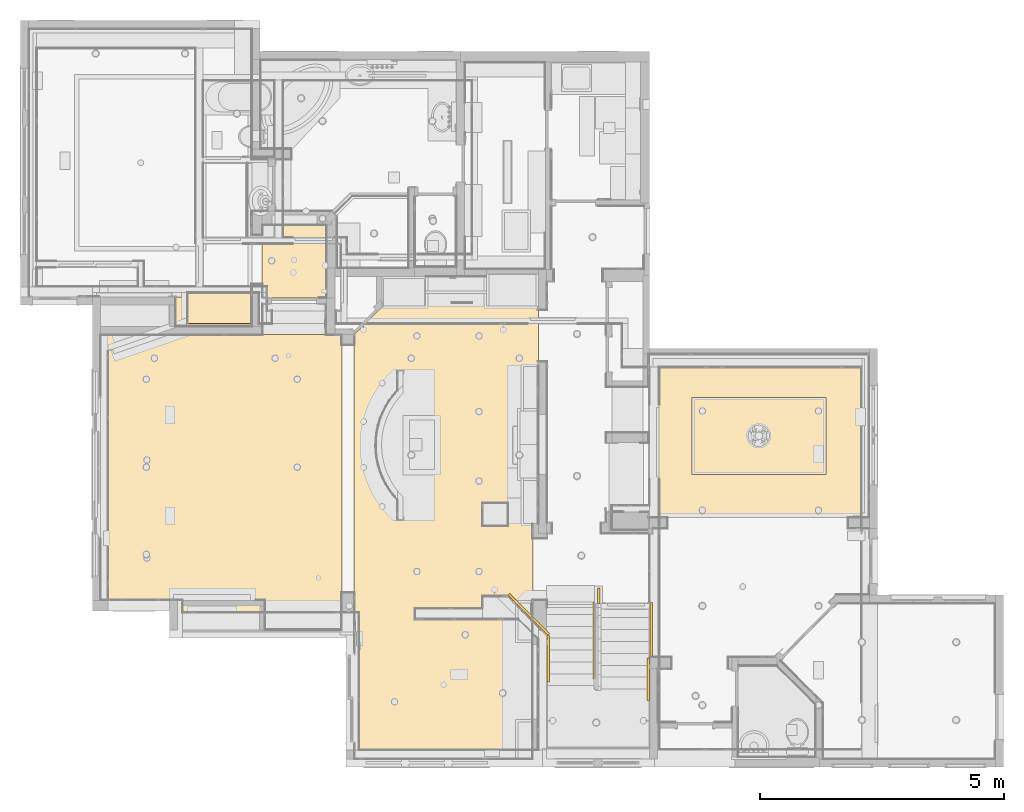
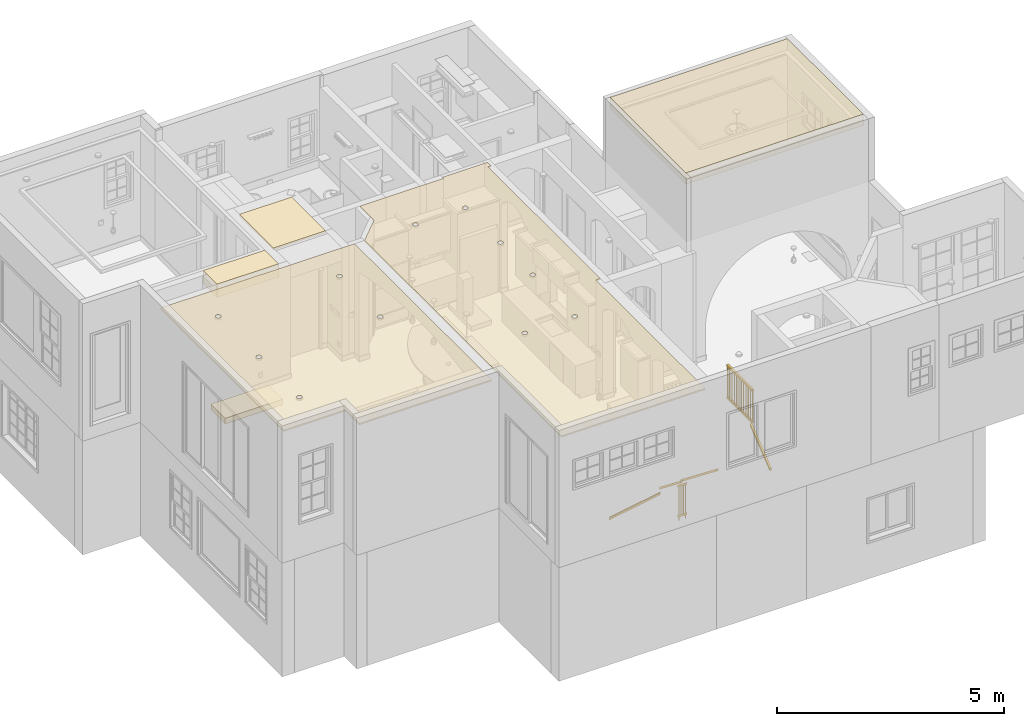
# One storey, part 34 of 81: 7 coverings, 6 railings, 1 element without a shape of its own.
"""IFC2X3 building model written with IfcOpenShell, lengths in feet."""

from ifc_helpers import new_model, entity, si_unit, converted_unit, derived_unit, direction, frame, frame_2d, origin, origin_2d_with_axis, place, context, subcontext, project, spatial, polyline, circle_curve, parameter, trimmed, segment, composite_curve, rectangle, outline, extrude, material, layer, layer_set, layer_usage, type_object, element, aggregate, save


model = new_model("IFC2X3")

# Units and contexts
model_context = context("Model", 3, precision=0.0001, world=origin(), true_north=direction((6.12303176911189e-17, 1.0)))
body_context = subcontext(model_context, "Body", "Model", "MODEL_VIEW")
ifc_project = project(units=[converted_unit("LENGTHUNIT", "FOOT", entity("IfcRatioMeasure", 0.3048), si_unit("LENGTHUNIT", "METRE"), dimensions=[1, 0, 0, 0, 0, 0, 0]), converted_unit("AREAUNIT", "SQUARE FOOT", entity("IfcRatioMeasure", 0.09290304), si_unit("AREAUNIT", "SQUARE_METRE"), dimensions=[2, 0, 0, 0, 0, 0, 0]), converted_unit("VOLUMEUNIT", "CUBIC FOOT", entity("IfcRatioMeasure", 0.028316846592), si_unit("VOLUMEUNIT", "CUBIC_METRE"), dimensions=[3, 0, 0, 0, 0, 0, 0]), converted_unit("PLANEANGLEUNIT", "DEGREE", entity("IfcRatioMeasure", 0.0174532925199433), si_unit("PLANEANGLEUNIT", "RADIAN"), dimensions=[0, 0, 0, 0, 0, 0, 0]), si_unit("MASSUNIT", "GRAM", prefix="KILO"), derived_unit("MASSDENSITYUNIT", [(si_unit("MASSUNIT", "GRAM", prefix="KILO"), 1), (si_unit("LENGTHUNIT", "METRE"), -3)]), derived_unit("MOMENTOFINERTIAUNIT", [(si_unit("LENGTHUNIT", "METRE"), 4)]), si_unit("TIMEUNIT", "SECOND"), si_unit("FREQUENCYUNIT", "HERTZ"), si_unit("THERMODYNAMICTEMPERATUREUNIT", "DEGREE_CELSIUS"), derived_unit("THERMALTRANSMITTANCEUNIT", [(si_unit("MASSUNIT", "GRAM", prefix="KILO"), 1), (si_unit("THERMODYNAMICTEMPERATUREUNIT", "KELVIN"), -1), (si_unit("TIMEUNIT", "SECOND"), -3)]), derived_unit("VOLUMETRICFLOWRATEUNIT", [(si_unit("LENGTHUNIT", "METRE"), 3), (si_unit("TIMEUNIT", "SECOND"), -1)]), si_unit("ELECTRICCURRENTUNIT", "AMPERE"), si_unit("ELECTRICVOLTAGEUNIT", "VOLT"), si_unit("POWERUNIT", "WATT"), si_unit("FORCEUNIT", "NEWTON"), si_unit("ILLUMINANCEUNIT", "LUX"), si_unit("LUMINOUSFLUXUNIT", "LUMEN"), si_unit("LUMINOUSINTENSITYUNIT", "CANDELA"), derived_unit("USERDEFINED", [(si_unit("MASSUNIT", "GRAM", prefix="KILO"), -1), (si_unit("LENGTHUNIT", "METRE"), -2), (si_unit("TIMEUNIT", "SECOND"), 3), (si_unit("LUMINOUSFLUXUNIT", "LUMEN"), 1)]), derived_unit("LINEARVELOCITYUNIT", [(si_unit("LENGTHUNIT", "METRE"), 1), (si_unit("TIMEUNIT", "SECOND"), -1)]), si_unit("PRESSUREUNIT", "PASCAL"), derived_unit("USERDEFINED", [(si_unit("LENGTHUNIT", "METRE"), -2), (si_unit("MASSUNIT", "GRAM", prefix="KILO"), 1), (si_unit("TIMEUNIT", "SECOND"), -2)]), derived_unit("LINEARFORCEUNIT", [(si_unit("MASSUNIT", "GRAM", prefix="KILO"), 1), (si_unit("LENGTHUNIT", "METRE"), 1), (si_unit("TIMEUNIT", "SECOND"), -2), (si_unit("LENGTHUNIT", "METRE"), -1)]), derived_unit("PLANARFORCEUNIT", [(si_unit("MASSUNIT", "GRAM", prefix="KILO"), 1), (si_unit("LENGTHUNIT", "METRE"), 1), (si_unit("TIMEUNIT", "SECOND"), -2), (si_unit("LENGTHUNIT", "METRE"), -2)])], contexts=[model_context])

# Site, building, storey
site_placement = place(None, origin())
site = spatial("IfcSite", under=ifc_project, at=site_placement, Name="Default", CompositionType="ELEMENT")
building_placement = place(site_placement, origin())
building = spatial("IfcBuilding", under=site, at=building_placement, CompositionType="ELEMENT")
storey_placement = place(building_placement, origin())
storey = spatial("IfcBuildingStorey", under=building, at=storey_placement, Name="First floor", CompositionType="ELEMENT", Elevation=0.0)

# Coverings
ifc_material = material(Name="Default New Material")
ifc_layer_1 = layer(ifc_material, 0.5)
ifc_layer_set_1 = layer_set([ifc_layer_1], Name="Compound Ceiling:Ceiling_6\"")
ifc_layer_usage_1 = layer_usage(ifc_layer_set_1, "AXIS3", "POSITIVE", 0.0)
covering_type_1 = type_object("IfcCoveringType", Name="Compound Ceiling:Ceiling_6\"", PredefinedType="CEILING")
covering_1_placement = place(storey_placement, origin())
element("IfcCovering", 1, at=covering_1_placement, inside=storey, type_object=covering_type_1, material=ifc_layer_usage_1, Name="Compound Ceiling:Ceiling_6\"", ObjectType="Compound Ceiling:Ceiling_6\"", PredefinedType="CEILING", context=body_context, shape_type="SweptSolid", body=[
    extrude(rectangle(XDim=2.08333333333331, YDim=4.83333333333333, at=frame_2d((-3.5527136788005e-15, 0.0), x_axis=(1.0, 0.0))), frame((-8.25000000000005, 30.8333333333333, 7.91666666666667), z_axis=(0.0, 0.0, 1.0), x_axis=(0.0, -1.0, 0.0)), (0.0, 0.0, 1.0), 0.500000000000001),
])
ifc_layer_usage_2 = layer_usage(ifc_layer_set_1, "AXIS3", "POSITIVE", 0.0)
covering_type_2 = type_object("IfcCoveringType", Name="Compound Ceiling:Ceiling_6\"", PredefinedType="CEILING")
covering_2_placement = place(storey_placement, origin())
element("IfcCovering", 2, at=covering_2_placement, inside=storey, type_object=covering_type_2, material=ifc_layer_usage_2, Name="Compound Ceiling:Ceiling_6\"", ObjectType="Compound Ceiling:Ceiling_6\"", PredefinedType="CEILING", context=body_context, shape_type="SweptSolid", body=[
    extrude(outline(polyline([(-5.49999983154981, -7.41666666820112), (5.49999983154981, -7.41666666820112), (5.49999983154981, 7.41666666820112), (-5.49999983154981, 7.41666666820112), (-5.49999983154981, -7.41666666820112)]), holes=[polyline([(2.58333350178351, 4.50000000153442), (2.58333350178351, -4.49999999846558), (-2.58333316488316, -4.49999999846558), (-2.58333316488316, 4.50000000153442), (2.58333350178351, 4.50000000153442)])]), frame((27.7083333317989, 22.2500001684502, 26.1666666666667), z_axis=(0.0, 0.0, 1.0), x_axis=(0.0, -1.0, 0.0)), (0.0, 0.0, 1.0), 0.5),
])
ifc_layer_usage_3 = layer_usage(ifc_layer_set_1, "AXIS3", "POSITIVE", 0.0)
covering_type_3 = type_object("IfcCoveringType", Name="Compound Ceiling:Ceiling_6\"", PredefinedType="CEILING")
covering_3_placement = place(storey_placement, origin())
element("IfcCovering", 3, at=covering_3_placement, inside=storey, type_object=covering_type_3, material=ifc_layer_usage_3, Name="Compound Ceiling:Ceiling_6\"", ObjectType="Compound Ceiling:Ceiling_6\"", PredefinedType="CEILING", context=body_context, shape_type="SweptSolid", body=[
    extrude(rectangle(XDim=10.9999996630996, YDim=14.8333333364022, at=frame_2d((0.0, -3.5527136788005e-15), x_axis=(1.0, 0.0))), frame((27.7083333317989, 22.2500001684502, 26.6666666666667), z_axis=(0.0, 0.0, 1.0), x_axis=(0.0, -1.0, 0.0)), (0.0, 0.0, 1.0), 0.5),
])
ifc_layer_2 = layer(ifc_material, 0.166666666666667)
ifc_layer_set_2 = layer_set([ifc_layer_2], Name="Compound Ceiling:Ceiling_2\"")
ifc_layer_usage_4 = layer_usage(ifc_layer_set_2, "AXIS3", "POSITIVE", 0.0)
covering_type_4 = type_object("IfcCoveringType", Name="Compound Ceiling:Ceiling_2\"", PredefinedType="CEILING")
covering_4_placement = place(storey_placement, origin())
element("IfcCovering", 4, at=covering_4_placement, inside=storey, type_object=covering_type_4, material=ifc_layer_usage_4, Name="Compound Ceiling:Ceiling_2\"", ObjectType="Compound Ceiling:Ceiling_2\"", PredefinedType="CEILING", context=body_context, shape_type="SweptSolid", body=[
    extrude(rectangle(XDim=4.35416666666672, YDim=4.91666666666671, at=origin_2d_with_axis()), frame((-3.46875, 33.9583333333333, 20.5), z_axis=(0.0, 0.0, 1.0), x_axis=(-1.0, 0.0, 0.0)), (0.0, 0.0, 1.0), 0.166666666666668),
])
ifc_layer_3 = layer(ifc_material, 1.16666666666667)
ifc_layer_set_3 = layer_set([ifc_layer_3], Name="Compound Ceiling:Ceiling_14\"")
ifc_layer_usage_5 = layer_usage(ifc_layer_set_3, "AXIS3", "POSITIVE", 0.0)
covering_type_5 = type_object("IfcCoveringType", Name="Compound Ceiling:Ceiling_14\"", PredefinedType="CEILING")
covering_5_placement = place(storey_placement, origin())
element("IfcCovering", 5, at=covering_5_placement, inside=storey, type_object=covering_type_5, material=ifc_layer_usage_5, Name="Compound Ceiling:Ceiling_14\"", ObjectType="Compound Ceiling:Ceiling_14\"", PredefinedType="CEILING", context=body_context, shape_type="SweptSolid", body=[
    extrude(rectangle(XDim=5.16666666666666, YDim=2.00000000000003, at=frame_2d((8.88178419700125e-16, 0.0), x_axis=(1.0, 0.0))), frame((-8.89583333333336, 30.5833333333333, 19.5), z_axis=(0.0, 0.0, 1.0), x_axis=(-1.0, 0.0, 0.0)), (0.0, 0.0, 1.0), 1.16666666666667),
])
ifc_layer_4 = layer(ifc_material, 0.125)
ifc_layer_set_4 = layer_set([ifc_layer_4], Name="Compound Ceiling:Ceiling_1.5\"")
ifc_layer_usage_6 = layer_usage(ifc_layer_set_4, "AXIS3", "POSITIVE", 0.0)
covering_type_6 = type_object("IfcCoveringType", Name="Compound Ceiling:Ceiling_1.5\"", PredefinedType="CEILING")
covering_6_placement = place(storey_placement, origin())
element("IfcCovering", 6, at=covering_6_placement, inside=storey, type_object=covering_type_6, material=ifc_layer_usage_6, Name="Compound Ceiling:Ceiling_1.5\"", ObjectType="Compound Ceiling:Ceiling_1.5\"", PredefinedType="CEILING", context=body_context, shape_type="SweptSolid", body=[
    extrude(outline(polyline([(-7.73611111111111, 3.03240740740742), (-7.73611111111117, -14.8009259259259), (8.47222222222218, -14.800925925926), (8.47222222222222, 5.03240740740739), (3.30555555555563, 5.03240740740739), (2.93055555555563, 5.03240740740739), (-2.56944444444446, 5.03240740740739), (-2.56944444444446, 3.40740740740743), (-2.56944444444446, 3.03240740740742), (-7.73611111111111, 3.03240740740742)]), holes=[composite_curve([segment(trimmed(circle_curve(frame_2d((-4.6527777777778, -0.0509259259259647), x_axis=(1.0, 0.0)), 0.208333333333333), [parameter(4.57999874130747e-13)], [parameter(180.0)], True, "PARAMETER"), False, "CONTINUOUS"), segment(trimmed(circle_curve(frame_2d((-4.6527777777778, -0.0509259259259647), x_axis=(1.0, 0.0)), 0.208333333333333), [parameter(180.0)], [parameter(359.999999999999)], True, "PARAMETER"), False, "CONTINUOUS")], self_intersect=False), composite_curve([segment(trimmed(circle_curve(frame_2d((-4.65277777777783, -5.90379326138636), x_axis=(1.0, 0.0)), 0.208333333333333), [parameter(0.0)], [parameter(180.0)], True, "PARAMETER"), False, "CONTINUOUS"), segment(trimmed(circle_curve(frame_2d((-4.65277777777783, -5.90379326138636), x_axis=(1.0, 0.0)), 0.208333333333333), [parameter(180.0)], [parameter(0.0)], True, "PARAMETER"), False, "CONTINUOUS")], self_intersect=False), composite_curve([segment(trimmed(circle_curve(frame_2d((-4.65277777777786, -11.8027859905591), x_axis=(1.0, 0.0)), 0.208333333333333), [parameter(0.0)], [parameter(180.0)], True, "PARAMETER"), False, "CONTINUOUS"), segment(trimmed(circle_curve(frame_2d((-4.65277777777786, -11.8027859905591), x_axis=(1.0, 0.0)), 0.208333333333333), [parameter(180.0)], [parameter(0.0)], True, "PARAMETER"), False, "CONTINUOUS")], self_intersect=False), composite_curve([segment(trimmed(circle_curve(frame_2d((5.47892837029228, -11.8027859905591), x_axis=(1.0, 0.0)), 0.208333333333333), [parameter(0.0)], [parameter(180.0)], True, "PARAMETER"), False, "CONTINUOUS"), segment(trimmed(circle_curve(frame_2d((5.47892837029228, -11.8027859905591), x_axis=(1.0, 0.0)), 0.208333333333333), [parameter(180.0)], [parameter(0.0)], True, "PARAMETER"), False, "CONTINUOUS")], self_intersect=False), composite_curve([segment(trimmed(circle_curve(frame_2d((5.47892837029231, -5.90192289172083), x_axis=(1.0, 0.0)), 0.208333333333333), [parameter(0.0)], [parameter(180.0)], True, "PARAMETER"), False, "CONTINUOUS"), segment(trimmed(circle_curve(frame_2d((5.47892837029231, -5.90192289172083), x_axis=(1.0, 0.0)), 0.208333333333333), [parameter(180.0)], [parameter(0.0)], True, "PARAMETER"), False, "CONTINUOUS")], self_intersect=False)]), frame((-8.76388888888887, 14.2407407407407, 20.5416666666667), z_axis=(0.0, 0.0, -1.0), x_axis=(1.0, 0.0, 0.0)), (0.0, 0.0, -1.0), 0.125),
])
ifc_layer_5 = layer(ifc_material, 0.125)
ifc_layer_set_5 = layer_set([ifc_layer_5], Name="Compound Ceiling:Ceiling_1.5\" 1")
ifc_layer_usage_7 = layer_usage(ifc_layer_set_5, "AXIS3", "POSITIVE", 0.0)
covering_type_7 = type_object("IfcCoveringType", Name="Compound Ceiling:Ceiling_1.5\" 1", PredefinedType="CEILING")
covering_7_placement = place(storey_placement, origin())
element("IfcCovering", 7, at=covering_7_placement, inside=storey, type_object=covering_type_7, material=ifc_layer_usage_7, Name="Compound Ceiling:Ceiling_1.5\" 1", ObjectType="Compound Ceiling:Ceiling_1.5\" 1", PredefinedType="CEILING", context=body_context, shape_type="SweptSolid", body=[
    extrude(outline(polyline([(-8.012952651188, 6.42656732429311), (-8.01295265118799, -0.573769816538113), (-8.17961931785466, -0.573769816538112), (-8.17961931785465, -4.07376981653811), (-8.17961931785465, -4.34460314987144), (-7.67927415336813, -4.34460314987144), (-7.67927415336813, -4.07376981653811), (8.59155917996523, -4.07376981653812), (8.59155917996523, -3.69876981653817), (24.4037140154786, -3.69876981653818), (24.4037140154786, 8.30123018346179), (-4.09628598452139, 8.30123018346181), (-5.97094884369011, 6.42656732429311), (-8.012952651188, 6.42656732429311)]), holes=[composite_curve([segment(trimmed(circle_curve(frame_2d((-4.01295265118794, -0.0734326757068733), x_axis=(0.0, -1.0)), 0.208333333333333), [parameter(0.0)], [parameter(180.0)], True, "PARAMETER"), False, "CONTINUOUS"), segment(trimmed(circle_curve(frame_2d((-4.01295265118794, -0.0734326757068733), x_axis=(0.0, -1.0)), 0.208333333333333), [parameter(180.0)], [parameter(0.0)], True, "PARAMETER"), False, "CONTINUOUS")], self_intersect=False), composite_curve([segment(trimmed(circle_curve(frame_2d((1.07038068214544, -0.0734326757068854), x_axis=(0.0, -1.0)), 0.208333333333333), [parameter(0.0)], [parameter(180.0)], True, "PARAMETER"), False, "CONTINUOUS"), segment(trimmed(circle_curve(frame_2d((1.07038068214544, -0.0734326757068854), x_axis=(0.0, -1.0)), 0.208333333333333), [parameter(180.0)], [parameter(0.0)], True, "PARAMETER"), False, "CONTINUOUS")], self_intersect=False), composite_curve([segment(trimmed(circle_curve(frame_2d((5.73704734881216, -0.0734326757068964), x_axis=(0.0, -1.0)), 0.208333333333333), [parameter(0.0)], [parameter(180.0)], True, "PARAMETER"), False, "CONTINUOUS"), segment(trimmed(circle_curve(frame_2d((5.73704734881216, -0.0734326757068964), x_axis=(0.0, -1.0)), 0.208333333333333), [parameter(180.0)], [parameter(0.0)], True, "PARAMETER"), False, "CONTINUOUS")], self_intersect=False), composite_curve([segment(trimmed(circle_curve(frame_2d((11.8055619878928, -0.0734326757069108), x_axis=(0.0, -1.0)), 0.208333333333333), [parameter(0.0)], [parameter(180.0)], True, "PARAMETER"), False, "CONTINUOUS"), segment(trimmed(circle_curve(frame_2d((11.8055619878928, -0.0734326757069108), x_axis=(0.0, -1.0)), 0.208333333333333), [parameter(180.0)], [parameter(359.999999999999)], True, "PARAMETER"), False, "CONTINUOUS")], self_intersect=False), composite_curve([segment(trimmed(circle_curve(frame_2d((11.8055619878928, 4.09323399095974), x_axis=(0.0, -1.0)), 0.208333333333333), [parameter(4.57999874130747e-13)], [parameter(180.0)], True, "PARAMETER"), False, "CONTINUOUS"), segment(trimmed(circle_curve(frame_2d((11.8055619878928, 4.09323399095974), x_axis=(0.0, -1.0)), 0.208333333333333), [parameter(180.0)], [parameter(359.999999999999)], True, "PARAMETER"), False, "CONTINUOUS")], self_intersect=False), composite_curve([segment(trimmed(circle_curve(frame_2d((-4.01295265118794, 4.0932339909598), x_axis=(0.0, -1.0)), 0.208333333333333), [parameter(0.0)], [parameter(180.0)], True, "PARAMETER"), False, "CONTINUOUS"), segment(trimmed(circle_curve(frame_2d((-4.01295265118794, 4.0932339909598), x_axis=(0.0, -1.0)), 0.208333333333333), [parameter(180.0)], [parameter(0.0)], True, "PARAMETER"), False, "CONTINUOUS")], self_intersect=False)]), frame((8.84289685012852, 24.9453806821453, 20.5416666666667), z_axis=(0.0, 0.0, -1.0), x_axis=(0.0, -1.0, 0.0)), (0.0, 0.0, -1.0), 0.125),
])

# Stair, railings
stair_placement = place(storey_placement, origin())
stair = element("IfcStair", 8, at=stair_placement, inside=storey, Name="Assembled Stair:Stair", ObjectType="Assembled Stair:Stair_2018", ShapeType="NOTDEFINED")
railing_1_placement = place(stair_placement, origin())
railing_1 = element("IfcRailing", 9, at=railing_1_placement, material=ifc_material, Name="Railing:Railing_4", ObjectType="Railing:Railing_4", PredefinedType="NOTDEFINED", context=body_context, shape_type="SweptSolid", body=[
    extrude(outline(polyline([(-2.32477286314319, -0.0833333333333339), (2.45199525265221, -0.083333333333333), (2.32477286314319, 0.0833333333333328), (-2.45199525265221, 0.083333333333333), (-2.32477286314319, -0.0833333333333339)])), frame((12.2047588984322, 10.2047588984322, 4.49203401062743), z_axis=(0.707106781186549, 0.707106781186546, 0.0), x_axis=(0.562067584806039, -0.562067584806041, 0.606761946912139)), (0.0, 0.0, 1.0), 0.166666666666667),
])
railing_2_placement = place(stair_placement, origin())
railing_2 = element("IfcRailing", 10, at=railing_2_placement, material=ifc_material, Name="Railing:Railing_4 2", ObjectType="Railing:Railing_4 2", PredefinedType="NOTDEFINED", context=body_context, shape_type="SweptSolid", body=[
    extrude(outline(polyline([(-3.23724075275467, -0.0833333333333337), (3.36838191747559, -0.083333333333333), (3.23724075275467, 0.0833333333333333), (-3.36838191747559, 0.0833333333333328), (-3.23724075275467, -0.0833333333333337)])), frame((16.5833333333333, 8.50882294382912, 6.7371736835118), z_axis=(1.0, 0.0, 0.0), x_axis=(0.0, -0.785885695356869, 0.618371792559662)), (0.0, 0.0, 1.0), 0.166666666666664),
])
railing_3_placement = place(stair_placement, origin())
railing_3 = element("IfcRailing", 11, at=railing_3_placement, material=ifc_material, Name="Railing:Railing_4 2", ObjectType="Railing:Railing_4 2", PredefinedType="NOTDEFINED", context=body_context, shape_type="SweptSolid", body=[
    extrude(outline(polyline([(-1.90400922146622, -0.0833333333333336), (2.03515038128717, -0.0833333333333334), (1.90400922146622, 0.0833333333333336), (-2.03515038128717, 0.083333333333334), (-1.90400922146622, -0.0833333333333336)])), frame((13.5012381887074, 7.28546980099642, 7.69976545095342), z_axis=(1.0, 0.0, 0.0), x_axis=(0.0, -0.785885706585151, 0.618371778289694)), (0.0, 0.0, 1.0), 0.166666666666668),
])
railing_4_placement = place(stair_placement, origin())
railing_4 = element("IfcRailing", 12, at=railing_4_placement, material=ifc_material, Name="Railing:Railing_1.3 3", ObjectType="Railing:Railing_1.3 3", PredefinedType="NOTDEFINED", context=body_context, shape_type="SweptSolid", body=[
    extrude(outline(polyline([(-1.25188482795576, -0.03125), (1.20270688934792, -0.03125), (1.25188482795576, 0.03125), (-1.20270688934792, 0.03125), (-1.25188482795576, -0.03125)])), frame((16.9374999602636, 11.041257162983, 2.99453544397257), z_axis=(1.0, 0.0, 0.0), x_axis=(0.0, 0.0, -1.0)), (0.0, 0.0, 1.0), 0.0625),
    extrude(outline(polyline([(-1.25188482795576, -0.03125), (1.20270688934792, -0.03125), (1.25188482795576, 0.03125), (-1.20270688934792, 0.03125), (-1.25188482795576, -0.03125)])), frame((16.9374999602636, 11.3745904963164, 2.73225310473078), z_axis=(1.0, 0.0, 0.0), x_axis=(0.0, 0.0, -1.0)), (0.0, 0.0, 1.0), 0.0625),
    extrude(outline(polyline([(-1.25188482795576, -0.03125), (1.20270688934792, -0.03125), (1.25188482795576, 0.03125), (-1.20270688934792, 0.03125), (-1.25188482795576, -0.03125)])), frame((16.9374999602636, 11.7079238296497, 2.469970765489), z_axis=(1.0, 0.0, 0.0), x_axis=(0.0, 0.0, -1.0)), (0.0, 0.0, 1.0), 0.0625),
    extrude(outline(polyline([(-1.50188482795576, -0.03125), (1.47729585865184, -0.03125), (1.47729585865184, 0.03125), (-1.45270688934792, 0.03125), (-1.50188482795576, -0.03125)])), frame((16.9374999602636, 11.03125, 2.75240955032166), z_axis=(1.0, 0.0, 0.0), x_axis=(0.0, 0.0, -1.0)), (0.0, 0.0, 1.0), 0.0625),
    extrude(outline(polyline([(-1.50188482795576, -0.03125), (1.47729585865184, -0.03125), (1.47729585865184, 0.03125), (-1.45270688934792, 0.03125), (-1.50188482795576, -0.03125)])), frame((16.9374999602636, 12.010007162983, 1.98227739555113), z_axis=(1.0, 0.0, 0.0), x_axis=(0.0, 0.0, -1.0)), (0.0, 0.0, 1.0), 0.0625),
    extrude(outline(polyline([(-0.596903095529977, -0.0833333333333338), (0.728044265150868, -0.0833333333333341), (0.596903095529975, 0.0833333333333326), (-0.72804426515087, 0.083333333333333), (-0.596903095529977, -0.0833333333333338)])), frame((16.8854166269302, 11.5206285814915, 1.28401013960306), z_axis=(1.0, 0.0, 0.0), x_axis=(0.0, -0.785885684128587, 0.618371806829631)), (0.0, 0.0, 1.0), 0.166666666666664),
    extrude(outline(polyline([(-0.596903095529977, -0.0833333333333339), (0.728044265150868, -0.0833333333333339), (0.596903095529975, 0.0833333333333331), (-0.728044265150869, 0.0833333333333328), (-0.596903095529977, -0.0833333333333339)])), frame((16.8854166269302, 11.5206285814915, 3.95067680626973), z_axis=(1.0, 0.0, 0.0), x_axis=(0.0, -0.785885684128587, 0.618371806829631)), (0.0, 0.0, 1.0), 0.166666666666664),
])

# Railing
railing_5_placement = place(storey_placement, origin())
element("IfcRailing", 13, at=railing_5_placement, inside=storey, material=ifc_material, Name="Railing:Railing_1.3 2", ObjectType="Railing:Railing_1.3 2", PredefinedType="NOTDEFINED", context=body_context, shape_type="SweptSolid", body=[
    extrude(rectangle(XDim=0.0625, YDim=0.0625, at=origin_2d_with_axis()), frame((20.4734251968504, 7.37665994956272, 10.8333333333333), z_axis=(0.0, 0.0, 1.0), x_axis=(0.0, -1.0, 0.0)), (0.0, 0.0, 1.0), 2.66666666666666),
    extrude(rectangle(XDim=0.0625, YDim=0.0625, at=origin_2d_with_axis()), frame((20.4734251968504, 7.70999328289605, 10.8333333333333), z_axis=(0.0, 0.0, 1.0), x_axis=(0.0, -1.0, 0.0)), (0.0, 0.0, 1.0), 2.66666666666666),
    extrude(rectangle(XDim=0.0625, YDim=0.0625, at=origin_2d_with_axis()), frame((20.4734251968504, 8.04332661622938, 10.8333333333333), z_axis=(0.0, 0.0, 1.0), x_axis=(0.0, -1.0, 0.0)), (0.0, 0.0, 1.0), 2.66666666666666),
    extrude(rectangle(XDim=0.0625, YDim=0.0625, at=origin_2d_with_axis()), frame((20.4734251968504, 8.37665994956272, 10.8333333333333), z_axis=(0.0, 0.0, 1.0), x_axis=(0.0, -1.0, 0.0)), (0.0, 0.0, 1.0), 2.66666666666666),
    extrude(rectangle(XDim=0.0625, YDim=0.0625, at=origin_2d_with_axis()), frame((20.4734251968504, 8.70999328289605, 10.8333333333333), z_axis=(0.0, 0.0, 1.0), x_axis=(0.0, -1.0, 0.0)), (0.0, 0.0, 1.0), 2.66666666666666),
    extrude(rectangle(XDim=0.0625, YDim=0.0625, at=origin_2d_with_axis()), frame((20.4734251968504, 9.04332661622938, 10.8333333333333), z_axis=(0.0, 0.0, 1.0), x_axis=(0.0, -1.0, 0.0)), (0.0, 0.0, 1.0), 2.66666666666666),
    extrude(rectangle(XDim=0.0625, YDim=0.0625, at=origin_2d_with_axis()), frame((20.4734251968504, 9.37665994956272, 10.8333333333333), z_axis=(0.0, 0.0, 1.0), x_axis=(0.0, -1.0, 0.0)), (0.0, 0.0, 1.0), 2.66666666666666),
    extrude(rectangle(XDim=0.0625, YDim=0.0625, at=origin_2d_with_axis()), frame((20.4734251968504, 9.70999328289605, 10.8333333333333), z_axis=(0.0, 0.0, 1.0), x_axis=(0.0, -1.0, 0.0)), (0.0, 0.0, 1.0), 2.66666666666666),
    extrude(rectangle(XDim=0.0625, YDim=0.0625, at=origin_2d_with_axis()), frame((20.4734251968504, 10.0433266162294, 10.8333333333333), z_axis=(0.0, 0.0, 1.0), x_axis=(0.0, -1.0, 0.0)), (0.0, 0.0, 1.0), 2.66666666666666),
    extrude(rectangle(XDim=0.0625, YDim=0.0625, at=origin_2d_with_axis()), frame((20.4734251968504, 10.3766599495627, 10.8333333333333), z_axis=(0.0, 0.0, 1.0), x_axis=(0.0, -1.0, 0.0)), (0.0, 0.0, 1.0), 2.66666666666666),
    extrude(rectangle(XDim=0.0625, YDim=0.0625, at=origin_2d_with_axis()), frame((20.4734251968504, 10.7099932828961, 10.8333333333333), z_axis=(0.0, 0.0, 1.0), x_axis=(0.0, -1.0, 0.0)), (0.0, 0.0, 1.0), 2.66666666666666),
    extrude(rectangle(XDim=0.0625, YDim=0.0625, at=origin_2d_with_axis()), frame((20.4734251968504, 7.40625000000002, 10.8333333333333), z_axis=(0.0, 0.0, 1.0), x_axis=(0.0, -1.0, 0.0)), (0.0, 0.0, 1.0), 2.66666666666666),
    extrude(rectangle(XDim=0.0625, YDim=0.0625, at=origin_2d_with_axis()), frame((20.4734251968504, 11.0120766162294, 10.8333333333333), z_axis=(0.0, 0.0, 1.0), x_axis=(0.0, -1.0, 0.0)), (0.0, 0.0, 1.0), 2.66666666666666),
    extrude(rectangle(XDim=3.66832661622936, YDim=0.166666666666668, at=frame_2d((8.88178419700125e-16, -1.77635683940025e-15), x_axis=(1.0, 0.0))), frame((20.4734251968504, 9.2091633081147, 10.6666666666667), z_axis=(0.0, 0.0, 1.0), x_axis=(0.0, -1.0, 0.0)), (0.0, 0.0, 1.0), 0.166666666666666),
    extrude(rectangle(XDim=3.66832661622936, YDim=0.166666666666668, at=frame_2d((8.88178419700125e-16, -1.77635683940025e-15), x_axis=(1.0, 0.0))), frame((20.4734251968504, 9.2091633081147, 13.5), z_axis=(0.0, 0.0, 1.0), x_axis=(0.0, -1.0, 0.0)), (0.0, 0.0, 1.0), 0.166666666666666),
])

railing_6_placement = place(stair_placement, origin())
railing_6 = element("IfcRailing", 14, at=railing_6_placement, material=ifc_material, Name="Railing:Railing_4 3", ObjectType="Railing:Railing_4 3", PredefinedType="NOTDEFINED", context=body_context, shape_type="SweptSolid", body=[
    extrude(outline(polyline([(-1.88195664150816, -0.0833333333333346), (1.75081544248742, -0.0833333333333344), (1.88195664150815, 0.0833333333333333), (-1.75081544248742, 0.0833333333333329), (-1.88195664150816, -0.0833333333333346)])), frame((20.2083333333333, 5.90838941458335, 9.52138925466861), z_axis=(1.0, 0.0, 0.0), x_axis=(0.0, 0.785885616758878, 0.618371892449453)), (0.0, 0.0, 1.0), 0.166666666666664),
])

aggregate(stair, [railing_1, railing_2, railing_3, railing_4, railing_6])

save(model, "model.ifc")
